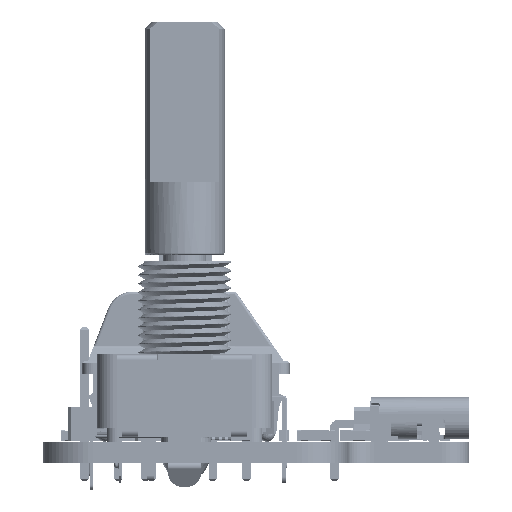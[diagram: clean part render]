
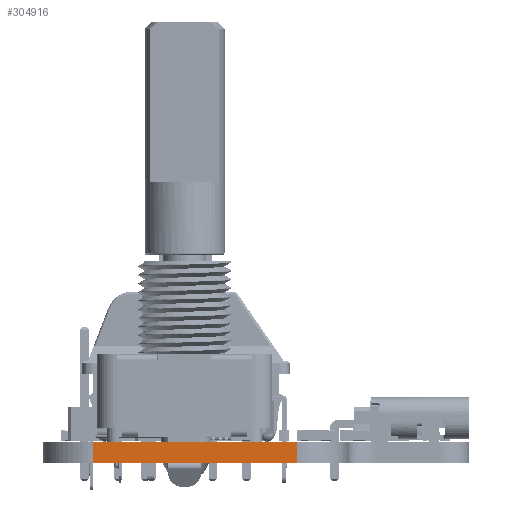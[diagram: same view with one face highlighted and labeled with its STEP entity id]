
A CAD part, left-side view. The second image highlights one B-rep face of the part: STEP entity #304916.
In plain terms, the highlighted planar face has unit normal (-1, 0, 0).
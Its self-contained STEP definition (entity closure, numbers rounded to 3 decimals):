
#292802 = PLANE('',#292803);
#292803 = AXIS2_PLACEMENT_3D('',#292804,#292805,#292806);
#292804 = CARTESIAN_POINT('',(75.039,-155.551,1.58));
#292805 = DIRECTION('',(-0.,-0.,-1.));
#292806 = DIRECTION('',(-1.,0.,0.));
#292856 = PLANE('',#292857);
#292857 = AXIS2_PLACEMENT_3D('',#292858,#292859,#292860);
#292858 = CARTESIAN_POINT('',(75.039,-155.551,0.));
#292859 = DIRECTION('',(-0.,-0.,-1.));
#292860 = DIRECTION('',(-1.,0.,0.));
#295149 = VERTEX_POINT('',#295150);
#295150 = CARTESIAN_POINT('',(20.066,-160.782,0.));
#295164 = PLANE('',#295165);
#295165 = AXIS2_PLACEMENT_3D('',#295166,#295167,#295168);
#295166 = CARTESIAN_POINT('',(20.087,-161.18,0.));
#295167 = DIRECTION('',(-0.999,-0.052,0.));
#295168 = DIRECTION('',(-0.052,0.999,0.));
#295176 = EDGE_CURVE('',#295149,#295177,#295179,.T.);
#295177 = VERTEX_POINT('',#295178);
#295178 = CARTESIAN_POINT('',(20.066,-145.442,0.));
#295179 = SURFACE_CURVE('',#295180,(#295184,#295191),.PCURVE_S1.);
#295180 = LINE('',#295181,#295182);
#295181 = CARTESIAN_POINT('',(20.066,-160.782,0.));
#295182 = VECTOR('',#295183,1.);
#295183 = DIRECTION('',(0.,1.,0.));
#295184 = PCURVE('',#292856,#295185);
#295185 = DEFINITIONAL_REPRESENTATION('',(#295186),#295190);
#295186 = LINE('',#295187,#295188);
#295187 = CARTESIAN_POINT('',(54.973,-5.231));
#295188 = VECTOR('',#295189,1.);
#295189 = DIRECTION('',(0.,1.));
#295190 = ( GEOMETRIC_REPRESENTATION_CONTEXT(2) 
PARAMETRIC_REPRESENTATION_CONTEXT() REPRESENTATION_CONTEXT('2D SPACE',''
  ) );
#295191 = PCURVE('',#295192,#295197);
#295192 = PLANE('',#295193);
#295193 = AXIS2_PLACEMENT_3D('',#295194,#295195,#295196);
#295194 = CARTESIAN_POINT('',(20.066,-160.782,0.));
#295195 = DIRECTION('',(-1.,0.,0.));
#295196 = DIRECTION('',(0.,1.,0.));
#295197 = DEFINITIONAL_REPRESENTATION('',(#295198),#295202);
#295198 = LINE('',#295199,#295200);
#295199 = CARTESIAN_POINT('',(0.,0.));
#295200 = VECTOR('',#295201,1.);
#295201 = DIRECTION('',(1.,0.));
#295202 = ( GEOMETRIC_REPRESENTATION_CONTEXT(2) 
PARAMETRIC_REPRESENTATION_CONTEXT() REPRESENTATION_CONTEXT('2D SPACE',''
  ) );
#295220 = PLANE('',#295221);
#295221 = AXIS2_PLACEMENT_3D('',#295222,#295223,#295224);
#295222 = CARTESIAN_POINT('',(20.066,-145.442,0.));
#295223 = DIRECTION('',(-0.999,0.052,0.));
#295224 = DIRECTION('',(0.052,0.999,0.));
#300803 = VERTEX_POINT('',#300804);
#300804 = CARTESIAN_POINT('',(20.066,-160.782,1.58));
#300825 = EDGE_CURVE('',#300803,#300826,#300828,.T.);
#300826 = VERTEX_POINT('',#300827);
#300827 = CARTESIAN_POINT('',(20.066,-145.442,1.58));
#300828 = SURFACE_CURVE('',#300829,(#300833,#300840),.PCURVE_S1.);
#300829 = LINE('',#300830,#300831);
#300830 = CARTESIAN_POINT('',(20.066,-160.782,1.58));
#300831 = VECTOR('',#300832,1.);
#300832 = DIRECTION('',(0.,1.,0.));
#300833 = PCURVE('',#292802,#300834);
#300834 = DEFINITIONAL_REPRESENTATION('',(#300835),#300839);
#300835 = LINE('',#300836,#300837);
#300836 = CARTESIAN_POINT('',(54.973,-5.231));
#300837 = VECTOR('',#300838,1.);
#300838 = DIRECTION('',(0.,1.));
#300839 = ( GEOMETRIC_REPRESENTATION_CONTEXT(2) 
PARAMETRIC_REPRESENTATION_CONTEXT() REPRESENTATION_CONTEXT('2D SPACE',''
  ) );
#300840 = PCURVE('',#295192,#300841);
#300841 = DEFINITIONAL_REPRESENTATION('',(#300842),#300846);
#300842 = LINE('',#300843,#300844);
#300843 = CARTESIAN_POINT('',(0.,-1.58));
#300844 = VECTOR('',#300845,1.);
#300845 = DIRECTION('',(1.,0.));
#300846 = ( GEOMETRIC_REPRESENTATION_CONTEXT(2) 
PARAMETRIC_REPRESENTATION_CONTEXT() REPRESENTATION_CONTEXT('2D SPACE',''
  ) );
#304866 = EDGE_CURVE('',#295177,#300826,#304867,.T.);
#304867 = SURFACE_CURVE('',#304868,(#304872,#304879),.PCURVE_S1.);
#304868 = LINE('',#304869,#304870);
#304869 = CARTESIAN_POINT('',(20.066,-145.442,0.));
#304870 = VECTOR('',#304871,1.);
#304871 = DIRECTION('',(0.,0.,1.));
#304872 = PCURVE('',#295220,#304873);
#304873 = DEFINITIONAL_REPRESENTATION('',(#304874),#304878);
#304874 = LINE('',#304875,#304876);
#304875 = CARTESIAN_POINT('',(0.,0.));
#304876 = VECTOR('',#304877,1.);
#304877 = DIRECTION('',(0.,-1.));
#304878 = ( GEOMETRIC_REPRESENTATION_CONTEXT(2) 
PARAMETRIC_REPRESENTATION_CONTEXT() REPRESENTATION_CONTEXT('2D SPACE',''
  ) );
#304879 = PCURVE('',#295192,#304880);
#304880 = DEFINITIONAL_REPRESENTATION('',(#304881),#304885);
#304881 = LINE('',#304882,#304883);
#304882 = CARTESIAN_POINT('',(15.34,0.));
#304883 = VECTOR('',#304884,1.);
#304884 = DIRECTION('',(0.,-1.));
#304885 = ( GEOMETRIC_REPRESENTATION_CONTEXT(2) 
PARAMETRIC_REPRESENTATION_CONTEXT() REPRESENTATION_CONTEXT('2D SPACE',''
  ) );
#304916 = ADVANCED_FACE('',(#304917),#295192,.T.);
#304917 = FACE_BOUND('',#304918,.T.);
#304918 = EDGE_LOOP('',(#304919,#304940,#304941,#304942));
#304919 = ORIENTED_EDGE('',*,*,#304920,.T.);
#304920 = EDGE_CURVE('',#295149,#300803,#304921,.T.);
#304921 = SURFACE_CURVE('',#304922,(#304926,#304933),.PCURVE_S1.);
#304922 = LINE('',#304923,#304924);
#304923 = CARTESIAN_POINT('',(20.066,-160.782,0.));
#304924 = VECTOR('',#304925,1.);
#304925 = DIRECTION('',(0.,0.,1.));
#304926 = PCURVE('',#295192,#304927);
#304927 = DEFINITIONAL_REPRESENTATION('',(#304928),#304932);
#304928 = LINE('',#304929,#304930);
#304929 = CARTESIAN_POINT('',(0.,0.));
#304930 = VECTOR('',#304931,1.);
#304931 = DIRECTION('',(0.,-1.));
#304932 = ( GEOMETRIC_REPRESENTATION_CONTEXT(2) 
PARAMETRIC_REPRESENTATION_CONTEXT() REPRESENTATION_CONTEXT('2D SPACE',''
  ) );
#304933 = PCURVE('',#295164,#304934);
#304934 = DEFINITIONAL_REPRESENTATION('',(#304935),#304939);
#304935 = LINE('',#304936,#304937);
#304936 = CARTESIAN_POINT('',(0.399,0.));
#304937 = VECTOR('',#304938,1.);
#304938 = DIRECTION('',(0.,-1.));
#304939 = ( GEOMETRIC_REPRESENTATION_CONTEXT(2) 
PARAMETRIC_REPRESENTATION_CONTEXT() REPRESENTATION_CONTEXT('2D SPACE',''
  ) );
#304940 = ORIENTED_EDGE('',*,*,#300825,.T.);
#304941 = ORIENTED_EDGE('',*,*,#304866,.F.);
#304942 = ORIENTED_EDGE('',*,*,#295176,.F.);
